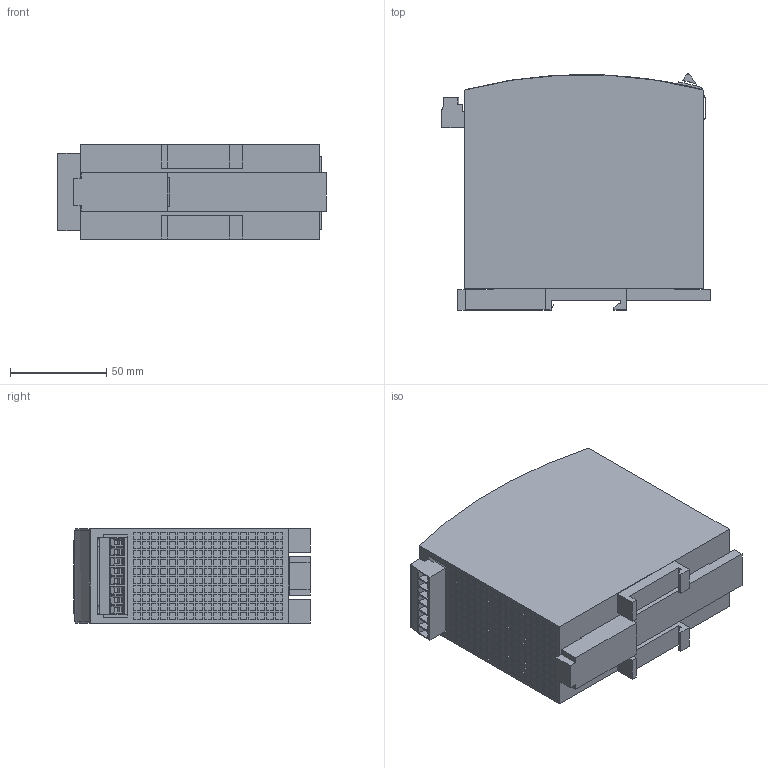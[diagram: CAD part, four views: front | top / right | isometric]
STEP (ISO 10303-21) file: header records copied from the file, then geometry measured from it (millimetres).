
FILE_DESCRIPTION((''),'2;1');
FILE_NAME('46807-828_SW0001','2013-08-05T',('mguelmi'),('Rockwell Automation'),'PRO/ENGINEER BY PARAMETRIC TECHNOLOGY CORPORATION, 2010140','PRO/ENGINEER BY PARAMETRIC TECHNOLOGY CORPORATION, 2010140','');
FILE_SCHEMA(('CONFIG_CONTROL_DESIGN'));
Length unit declared in the file: millimetre
Products named in the file (1): 46807-828_SW0001
Bounding box: 139.15 x 122.41 x 49.05 mm (x, y, z)
Surface area: 56499.5 mm2 (no closed solid volume)
Topology: 0 solids, 388 shells, 501 faces, 3608 edges, 3486 vertices
Faces by surface type: plane 475, cylinder 26
Entity records: 34651 total; most frequent: CARTESIAN_POINT 7634, DIRECTION 5514, ORIENTED_EDGE 3828, EDGE_CURVE 3608, VERTEX_POINT 3486, VECTOR 2696, LINE 2696, AXIS2_PLACEMENT_3D 1409
